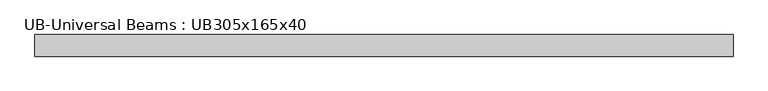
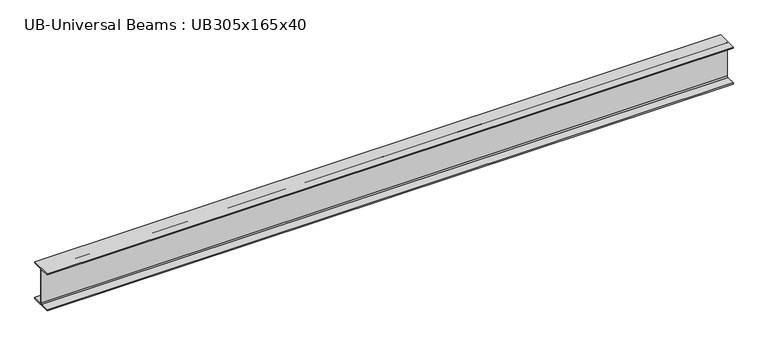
"""IFC4 building model written with IfcOpenShell, lengths in millimetres: beam geometry, UB-Universal Beams : UB305x165x40."""

from ifc_helpers import new_model, si_unit, point, frame, frame_2d, origin, place, context, project, spatial, polyline, circle_curve, trimmed, segment, composite_curve, outline, extrude, source, transform, mapped, element, save


def ub_universal_beams_ub305x165x40_3089dc19(model_context):
    return source(origin(), model_context, "Body", "SweptSolid", [
        extrude(outline(composite_curve([segment(polyline([(82.5, -141.5), (82.5, -151.7), (-82.5, -151.7), (-82.5, -141.5), (-11.9, -141.5)]), True, "CONTINUOUS"), segment(trimmed(circle_curve(frame_2d((-11.9, -132.6)), 8.9), [point((-11.9, -141.5))], [point((-3.0, -132.6))], True, "CARTESIAN"), True, "CONTINUOUS"), segment(polyline([(-3.0, -132.6), (-3.0, 132.6)]), True, "CONTINUOUS"), segment(trimmed(circle_curve(frame_2d((-11.9, 132.6)), 8.9), [point((-3.0, 132.6))], [point((-11.9, 141.5))], True, "CARTESIAN"), True, "CONTINUOUS"), segment(polyline([(-11.9, 141.5), (-82.5, 141.5), (-82.5, 151.7), (82.5, 151.7), (82.5, 141.5), (11.9, 141.5)]), True, "CONTINUOUS"), segment(trimmed(circle_curve(frame_2d((11.9, 132.6)), 8.9), [point((11.9, 141.5))], [point((3.0, 132.6))], True, "CARTESIAN"), True, "CONTINUOUS"), segment(polyline([(3.0, 132.6), (3.0, -132.6)]), True, "CONTINUOUS"), segment(trimmed(circle_curve(frame_2d((11.9, -132.6)), 8.9), [point((3.0, -132.6))], [point((11.9, -141.5))], True, "CARTESIAN"), True, "CONTINUOUS"), segment(polyline([(11.9, -141.5), (82.5, -141.5)]), True, "CONTINUOUS")], self_intersect=False)), frame((-2600.65, 0.0, 0.0), z_axis=(1.0, 0.0, 0.0), x_axis=(0.0, 1.0, 0.0)), (0.0, 0.0, 1.0), 5317.3),
    ])


if __name__ == "__main__":
    model = new_model("IFC4")
    model_context = context("Model", 3, world=origin())
    ifc_project = project(units=[si_unit("LENGTHUNIT", "METRE", prefix="MILLI")], contexts=[model_context])
    site = spatial("IfcSite", under=ifc_project)
    building = spatial("IfcBuilding", under=site)
    placement = place(None, origin())
    ub_universal_beams_ub305x165x40_shape = ub_universal_beams_ub305x165x40_3089dc19(model_context)
    element("IfcBeam", 1, ObjectType="UB-Universal Beams : UB305x165x40", at=placement, inside=building, context=model_context, shape_type="MappedRepresentation", body=[
        mapped(ub_universal_beams_ub305x165x40_shape, transform((0.0, 0.0, 0.0), x_axis=(1.0, 0.0, 0.0), y_axis=(0.0, 1.0, 0.0), z_axis=(0.0, 0.0, 1.0))),
    ])
    save(model, "model.ifc")
